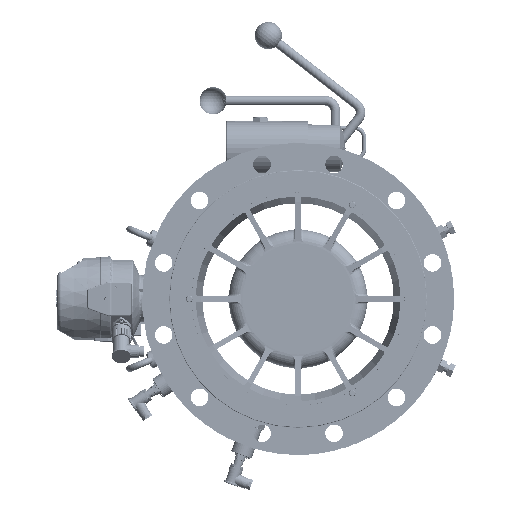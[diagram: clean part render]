
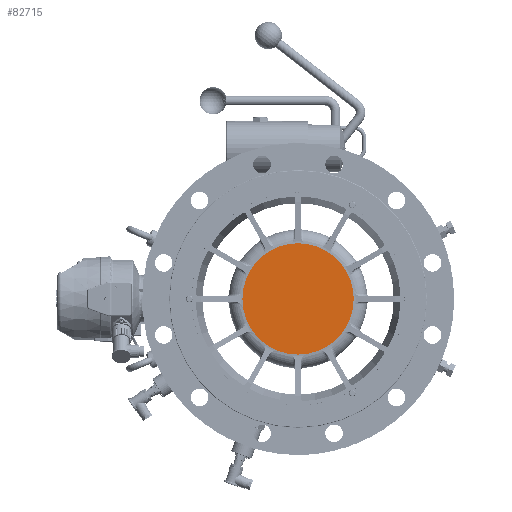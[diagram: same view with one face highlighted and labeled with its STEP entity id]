
A CAD part, left-side view. The second image highlights one B-rep face of the part: STEP entity #82715.
In plain terms, the highlighted planar face has unit normal (-1, 0, 0).
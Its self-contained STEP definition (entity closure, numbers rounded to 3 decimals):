
#76825=CARTESIAN_POINT('',(-20.,0.,0.));
#76826=DIRECTION('',(-1.,0.,0.));
#76827=DIRECTION('',(0.,1.,0.));
#76828=AXIS2_PLACEMENT_3D('',#76825,#76826,#76827);
#76833=CARTESIAN_POINT('',(-20.,0.,0.));
#76834=DIRECTION('',(1.,0.,0.));
#76835=DIRECTION('',(0.,1.,0.));
#76836=AXIS2_PLACEMENT_3D('',#76833,#76834,#76835);
#80744=CARTESIAN_POINT('',(-20.,82.,0.));
#80745=CARTESIAN_POINT('',(-20.,-82.,0.));
#80746=VERTEX_POINT('',#80744);
#80747=VERTEX_POINT('',#80745);
#82706=CARTESIAN_POINT('',(-20.,0.,0.));
#82707=DIRECTION('',(1.,0.,0.));
#82708=DIRECTION('',(0.,-1.,0.));
#82709=AXIS2_PLACEMENT_3D('',#82706,#82707,#82708);
#82710=PLANE('',#82709);
#82711=ORIENTED_EDGE('',*,*,#82362,.F.);
#82712=ORIENTED_EDGE('',*,*,#82133,.T.);
#82713=EDGE_LOOP('',(#82711,#82712));
#82714=FACE_OUTER_BOUND('',#82713,.F.);
#82715=ADVANCED_FACE('',(#82714),#82710,.F.);
#76829=CIRCLE('',#76828,82.);
#76837=CIRCLE('',#76836,82.);
#82133=EDGE_CURVE('',#80746,#80747,#76837,.T.);
#82362=EDGE_CURVE('',#80746,#80747,#76829,.T.);
